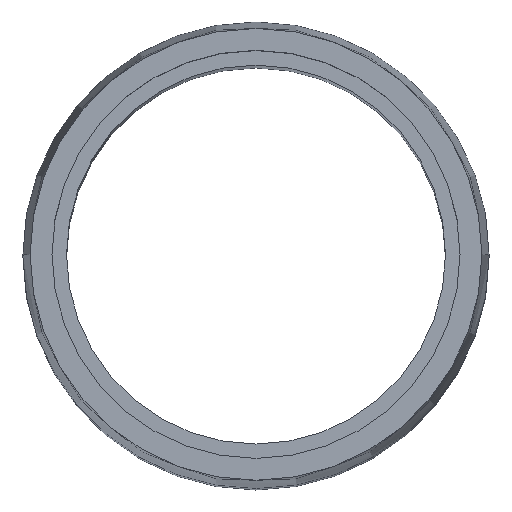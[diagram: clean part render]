
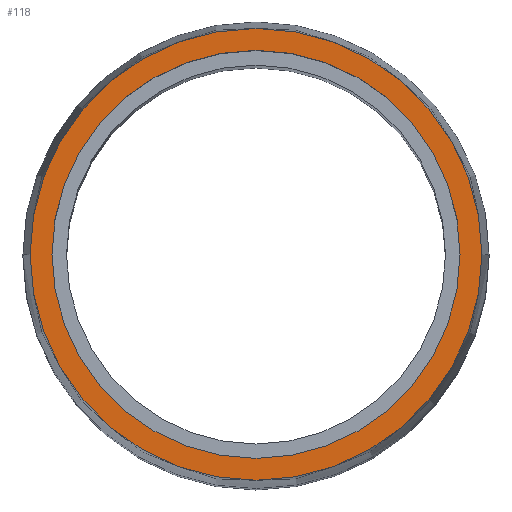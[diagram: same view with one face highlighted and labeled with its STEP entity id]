
A CAD part, top view. The second image highlights one B-rep face of the part: STEP entity #118.
In plain terms, the highlighted planar face has unit normal (0, 0, 1).
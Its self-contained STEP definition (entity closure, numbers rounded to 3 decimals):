
#21 = DIRECTION ( 'NONE',  ( 1., 0., 0. ) ) ;
#36 = CARTESIAN_POINT ( 'NONE',  ( 0., 0., 65. ) ) ;
#41 = CIRCLE ( 'NONE', #363, 14. ) ;
#53 = DIRECTION ( 'NONE',  ( 0., 0., 1. ) ) ;
#56 = PLANE ( 'NONE',  #155 ) ;
#69 = ORIENTED_EDGE ( 'NONE', *, *, #459, .F. ) ;
#76 = VERTEX_POINT ( 'NONE', #236 ) ;
#88 = VERTEX_POINT ( 'NONE', #447 ) ;
#92 = CARTESIAN_POINT ( 'NONE',  ( 0., 0., 65. ) ) ;
#118 = ADVANCED_FACE ( 'NONE', ( #348, #147 ), #56, .T. ) ;
#119 = EDGE_LOOP ( 'NONE', ( #438, #69 ) ) ;
#128 = DIRECTION ( 'NONE',  ( 1., 0., 0. ) ) ;
#142 = DIRECTION ( 'NONE',  ( 1., 0., 0. ) ) ;
#147 = FACE_OUTER_BOUND ( 'NONE', #174, .T. ) ;
#155 = AXIS2_PLACEMENT_3D ( 'NONE', #278, #318, #21 ) ;
#174 = EDGE_LOOP ( 'NONE', ( #339, #387 ) ) ;
#185 = DIRECTION ( 'NONE',  ( 0., 0., 1. ) ) ;
#188 = EDGE_CURVE ( 'NONE', #76, #88, #227, .T. ) ;
#206 = AXIS2_PLACEMENT_3D ( 'NONE', #356, #53, #280 ) ;
#227 = CIRCLE ( 'NONE', #206, 15.5 ) ;
#235 = VERTEX_POINT ( 'NONE', #391 ) ;
#236 = CARTESIAN_POINT ( 'NONE',  ( 15.5, 0., 65. ) ) ;
#259 = DIRECTION ( 'NONE',  ( 1., 0., 0. ) ) ;
#263 = EDGE_CURVE ( 'NONE', #88, #76, #353, .T. ) ;
#278 = CARTESIAN_POINT ( 'NONE',  ( 0., 0., 65. ) ) ;
#280 = DIRECTION ( 'NONE',  ( 1., 0., 0. ) ) ;
#289 = CARTESIAN_POINT ( 'NONE',  ( 0., 0., 65. ) ) ;
#298 = VERTEX_POINT ( 'NONE', #397 ) ;
#318 = DIRECTION ( 'NONE',  ( 0., 0., 1. ) ) ;
#332 = AXIS2_PLACEMENT_3D ( 'NONE', #289, #433, #128 ) ;
#333 = DIRECTION ( 'NONE',  ( 0., 0., 1. ) ) ;
#339 = ORIENTED_EDGE ( 'NONE', *, *, #263, .T. ) ;
#348 = FACE_BOUND ( 'NONE', #119, .T. ) ;
#353 = CIRCLE ( 'NONE', #332, 15.5 ) ;
#356 = CARTESIAN_POINT ( 'NONE',  ( 0., 0., 65. ) ) ;
#363 = AXIS2_PLACEMENT_3D ( 'NONE', #92, #185, #259 ) ;
#386 = EDGE_CURVE ( 'NONE', #235, #298, #41, .T. ) ;
#387 = ORIENTED_EDGE ( 'NONE', *, *, #188, .T. ) ;
#391 = CARTESIAN_POINT ( 'NONE',  ( 14., 0., 65. ) ) ;
#397 = CARTESIAN_POINT ( 'NONE',  ( -14., 0., 65. ) ) ;
#433 = DIRECTION ( 'NONE',  ( 0., 0., 1. ) ) ;
#438 = ORIENTED_EDGE ( 'NONE', *, *, #386, .F. ) ;
#447 = CARTESIAN_POINT ( 'NONE',  ( -15.5, 0., 65. ) ) ;
#449 = AXIS2_PLACEMENT_3D ( 'NONE', #36, #333, #142 ) ;
#455 = CIRCLE ( 'NONE', #449, 14. ) ;
#459 = EDGE_CURVE ( 'NONE', #298, #235, #455, .T. ) ;
